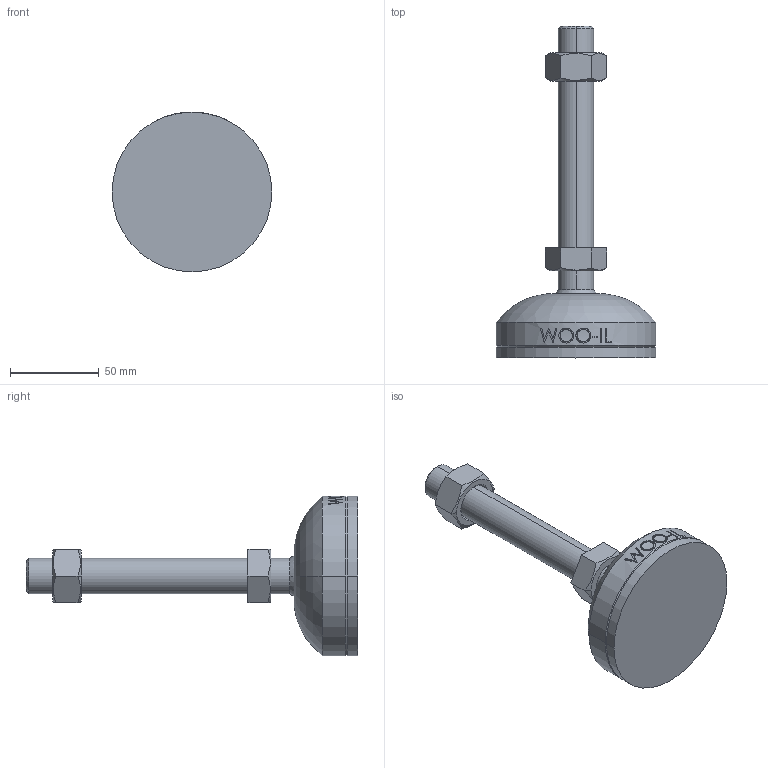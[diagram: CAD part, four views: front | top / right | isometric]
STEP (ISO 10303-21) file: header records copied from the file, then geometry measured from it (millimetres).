
FILE_DESCRIPTION (( 'STEP AP214' ), '1' );
FILE_NAME ('PL90-M20-125.step', '2021-03-05T05:05:40', ( '' ), ( '' ), 'SwSTEP 2.0', 'SolidWorks 2019', '' );
FILE_SCHEMA (( 'AUTOMOTIVE_DESIGN' ));
Length unit declared in the file: millimetre
Products named in the file (2): PL90-M20-125
Bounding box: 90 x 187 x 90 mm (x, y, z)
Volume: 253889 mm3; surface area: 46374.1 mm2
Topology: 3 solids, 3 shells, 100 faces, 233 edges, 150 vertices
Faces by surface type: plane 48, cylinder 18, bspline 16, cone 14, sphere 2, torus 2
Entity records: 4426 total; most frequent: CARTESIAN_POINT 2199, ORIENTED_EDGE 466, DIRECTION 407, EDGE_CURVE 233, AXIS2_PLACEMENT_3D 154, VERTEX_POINT 150, EDGE_LOOP 113, FACE_OUTER_BOUND 100
